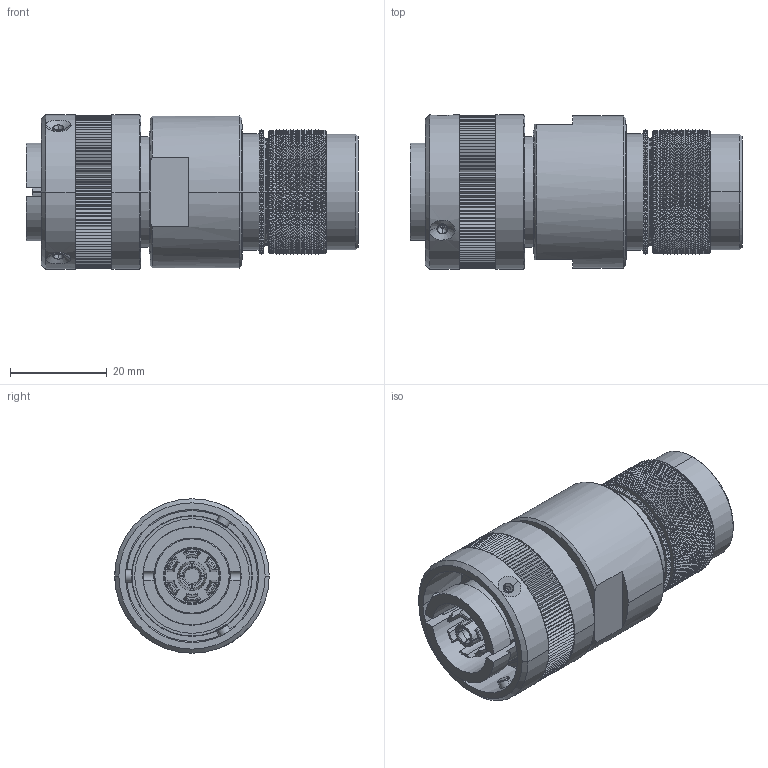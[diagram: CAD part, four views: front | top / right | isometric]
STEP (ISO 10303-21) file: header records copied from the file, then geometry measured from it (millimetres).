
FILE_DESCRIPTION((''),'2;1');
FILE_NAME('GCE3106E16M25S-B-T14_SW0001','2023-06-13T09:24:51',('paultorloting'),('NET AG system integration'),'CREO PARAMETRIC BY PTC INC, 2021404','CREO PARAMETRIC BY PTC INC, 2021404','');
FILE_SCHEMA(('AUTOMOTIVE_DESIGN { 1 0 10303 214 1 1 1 1 }'));
Products named in the file (1): GCE3106E16M25S-B-T14_SW0001
Bounding box: 68.8 x 32 x 32 mm (x, y, z)
Volume: 36103.9 mm3; surface area: 17545.7 mm2
Topology: 2 solids, 3 shells, 9156 faces, 16328 edges, 7215 vertices
Faces by surface type: bspline 6247, plane 2676, cylinder 98, cone 83, torus 52
Entity records: 314104 total; most frequent: CARTESIAN_POINT 176313, ORIENTED_EDGE 32644, EDGE_CURVE 16322, DIRECTION 11943, B_SPLINE_CURVE_WITH_KNOTS 10598, EDGE_LOOP 9213, FACE_OUTER_BOUND 9156, ADVANCED_FACE 9156
